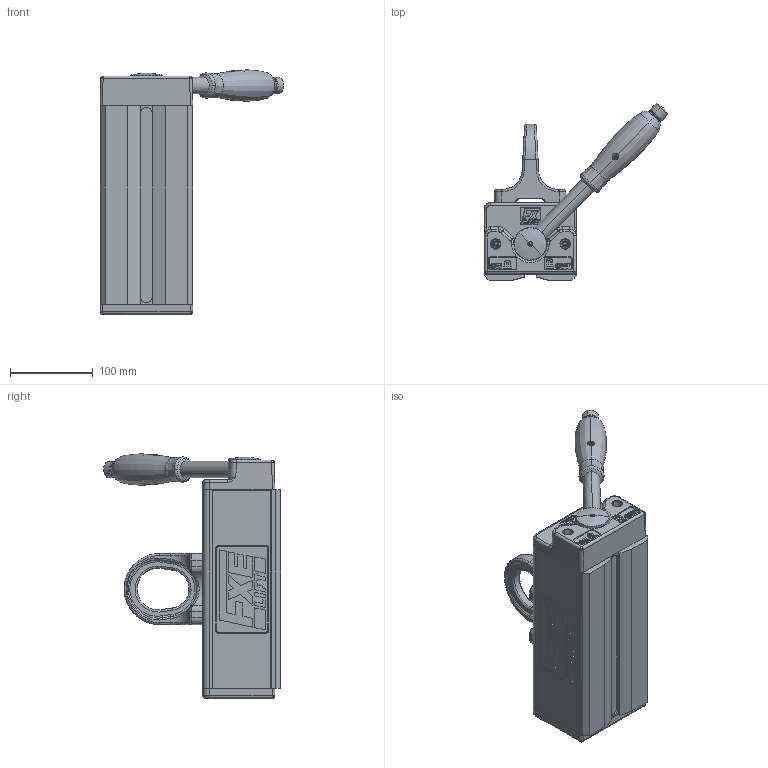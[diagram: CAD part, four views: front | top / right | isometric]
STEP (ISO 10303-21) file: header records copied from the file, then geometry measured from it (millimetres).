
FILE_DESCRIPTION (( 'STEP AP214' ), '1' );
FILE_NAME ('FX 600.STEP', '2016-06-15T08:20:37', ( '' ), ( '' ), 'SwSTEP 2.0', 'SolidWorks 2013', '' );
FILE_SCHEMA (( 'AUTOMOTIVE_DESIGN' ));
Length unit declared in the file: millimetre
Products named in the file (1): FX 600
Bounding box: 222.27 x 214.12 x 295.54 mm (x, y, z)
Surface area: 228064.2 mm2 (no closed solid volume)
Topology: 0 solids, 31 shells, 957 faces, 3150 edges, 2119 vertices
Faces by surface type: plane 404, bspline 263, cylinder 224, cone 52, torus 10, sphere 4
Entity records: 64400 total; most frequent: CARTESIAN_POINT 30158, ORIENTED_EDGE 5083, DIRECTION 3898, EDGE_CURVE 3097, VERTEX_POINT 2119, LINE 1502, VECTOR 1502, AXIS2_PLACEMENT_3D 1198
